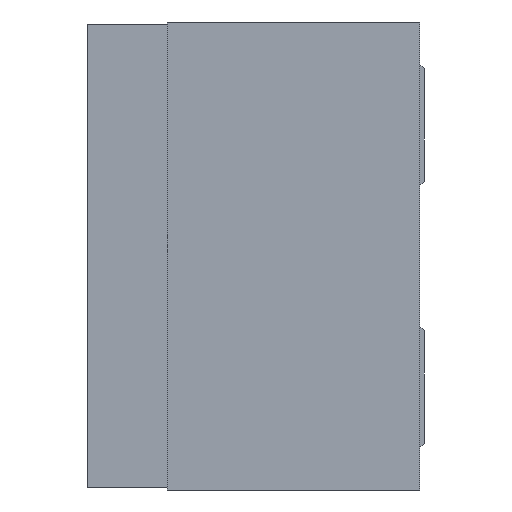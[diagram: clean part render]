
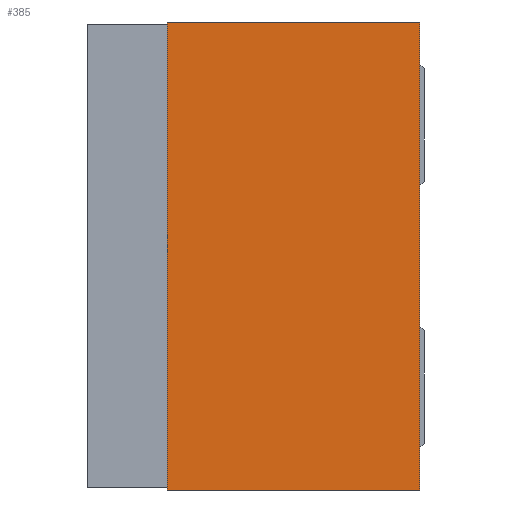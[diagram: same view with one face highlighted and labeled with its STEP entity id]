
A CAD part, left-side view. The second image highlights one B-rep face of the part: STEP entity #385.
In plain terms, the highlighted planar face has unit normal (-1, 0, 0).
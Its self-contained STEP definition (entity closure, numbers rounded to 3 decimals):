
#385 = ADVANCED_FACE( '', ( #1221 ), #1222, .F. );
#1221 = FACE_OUTER_BOUND( '', #2666, .T. );
#1222 = PLANE( '', #2667 );
#2666 = EDGE_LOOP( '', ( #4979, #4980, #4981, #4982 ) );
#2667 = AXIS2_PLACEMENT_3D( '', #4983, #4984, #4985 );
#4979 = ORIENTED_EDGE( '', *, *, #9422, .F. );
#4980 = ORIENTED_EDGE( '', *, *, #9423, .F. );
#4981 = ORIENTED_EDGE( '', *, *, #9424, .F. );
#4982 = ORIENTED_EDGE( '', *, *, #9418, .F. );
#4983 = CARTESIAN_POINT( '', ( -15., 0., 0. ) );
#4984 = DIRECTION( '', ( 1., 0., 0. ) );
#4985 = DIRECTION( '', ( 0., 0., -1. ) );
#9418 = EDGE_CURVE( '', #11394, #11395, #11396, .T. );
#9422 = EDGE_CURVE( '', #11402, #11394, #11403, .T. );
#9423 = EDGE_CURVE( '', #11404, #11402, #11405, .T. );
#9424 = EDGE_CURVE( '', #11395, #11404, #11406, .T. );
#11394 = VERTEX_POINT( '', #14346 );
#11395 = VERTEX_POINT( '', #14347 );
#11396 = LINE( '', #14348, #14349 );
#11402 = VERTEX_POINT( '', #14358 );
#11403 = LINE( '', #14359, #14360 );
#11404 = VERTEX_POINT( '', #14361 );
#11405 = LINE( '', #14362, #14363 );
#11406 = LINE( '', #14364, #14365 );
#14346 = CARTESIAN_POINT( '', ( -15., 23., -50. ) );
#14347 = CARTESIAN_POINT( '', ( -15., 23., 50. ) );
#14348 = CARTESIAN_POINT( '', ( -15., 23., -50. ) );
#14349 = VECTOR( '', #17710, 1. );
#14358 = CARTESIAN_POINT( '', ( -15., -31., -50. ) );
#14359 = CARTESIAN_POINT( '', ( -15., -31., -50. ) );
#14360 = VECTOR( '', #17714, 1. );
#14361 = CARTESIAN_POINT( '', ( -15., -31., 50. ) );
#14362 = CARTESIAN_POINT( '', ( -15., -31., 50. ) );
#14363 = VECTOR( '', #17715, 1. );
#14364 = CARTESIAN_POINT( '', ( -15., 23., 50. ) );
#14365 = VECTOR( '', #17716, 1. );
#17710 = DIRECTION( '', ( 0., 0., 1. ) );
#17714 = DIRECTION( '', ( 0., 1., 0. ) );
#17715 = DIRECTION( '', ( 0., 0., -1. ) );
#17716 = DIRECTION( '', ( 0., -1., 0. ) );
